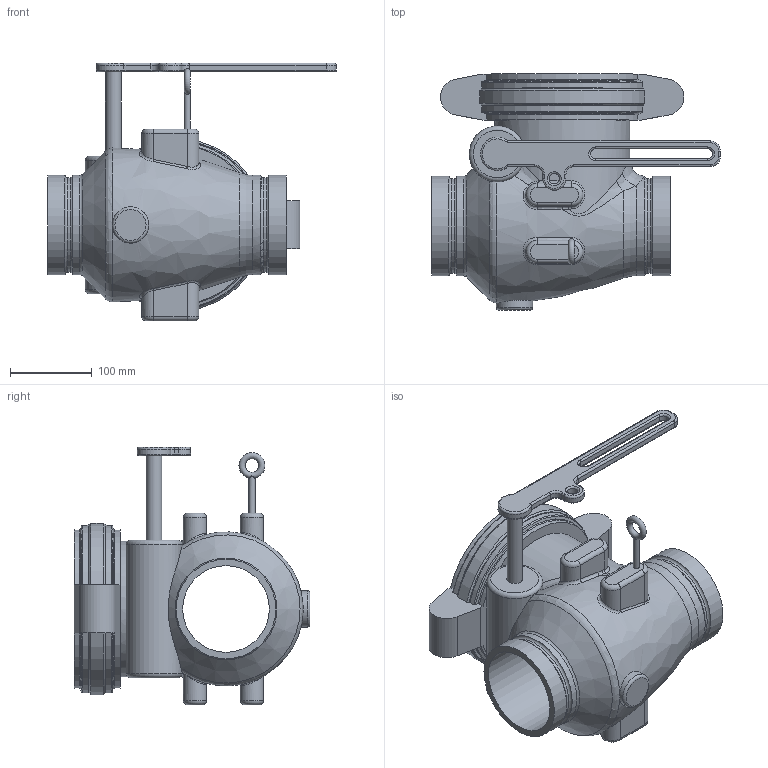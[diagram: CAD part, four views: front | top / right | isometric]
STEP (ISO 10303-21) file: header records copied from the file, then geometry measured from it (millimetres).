
FILE_DESCRIPTION(/* description */ ('VIC AWWA VALVE CHECK SPRING AND LEVER SERIES 317 (DRG)','CAx-IF Rec.Pracs.---Representation and Presentation of Product Manufacturing Information (PMI)---4.0---2014-10-13'),/* implementation_level */ '2;1');
FILE_NAME(/* name */ 'C:\Users\Vjadhav\Desktop\CAD for Inventor\1\317\STEP\Victaulic_AWWA_Valve Check Spring and Lever_Series 317 (DRG)\Victaulic_AWWA_Valve Check Spring and Lever_Series 317 (DRG)_4 (100).stp',/* time_stamp */ '2021-10-01T17:34:41+05:00',/* author */ ('jbrannon'),/* organization */ ('Victaulic'),/* preprocessor_version */ 'ST-DEVELOPER v17.2',/* originating_system */ 'Autodesk Inventor 2019',/* authorisation */ '');
FILE_SCHEMA (('AP242_MANAGED_MODEL_BASED_3D_ENGINEERING_MIM_LF { 1 0 10303 442 1 1 4 }'));
Length unit declared in the file: inch
Products named in the file (1): 317-04.0
Bounding box: 353.82 x 289.05 x 315.47 mm (x, y, z)
Volume: 6912960 mm3; surface area: 430700.2 mm2
Topology: 1 solids, 1 shells, 191 faces, 489 edges, 305 vertices
Faces by surface type: cylinder 65, torus 52, plane 37, bspline 28, cone 9
Full cylindrical faces by diameter (mm): 7.62 x1, 12.827 x1, 19.05 x1, 44.45 x1, 68.58 x1, 106.172 x1, 115.9 x2, 121.92 x3, 165.862 x1
Entity records: 7729 total; most frequent: CARTESIAN_POINT 2905, ORIENTED_EDGE 978, DIRECTION 967, EDGE_CURVE 489, AXIS2_PLACEMENT_3D 415, VERTEX_POINT 305, CIRCLE 238, EDGE_LOOP 204
